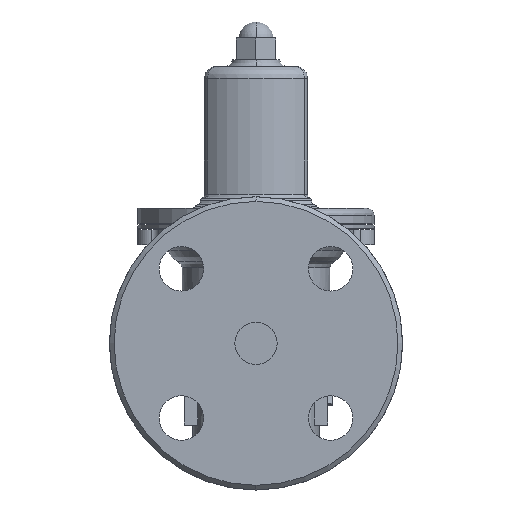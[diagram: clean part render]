
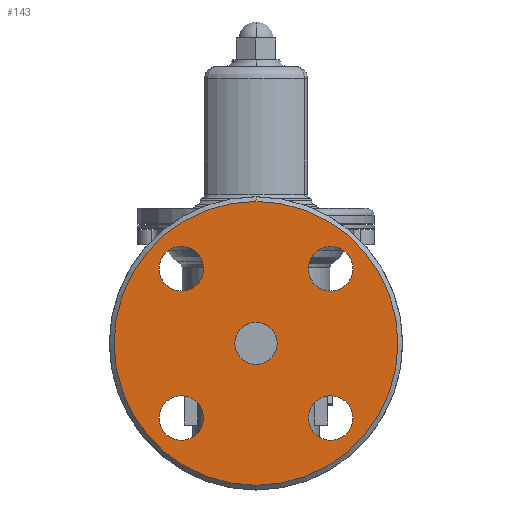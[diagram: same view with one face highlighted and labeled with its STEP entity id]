
A CAD part, left-side view. The second image highlights one B-rep face of the part: STEP entity #143.
In plain terms, the highlighted planar face has unit normal (-1, 0, 0).
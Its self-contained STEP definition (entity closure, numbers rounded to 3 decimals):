
#143=ADVANCED_FACE('',(#1430,#1431,#1432,#1433,#1434,#1435),#1429,.T.);
#1429=PLANE('',#5421);
#1430=FACE_OUTER_BOUND('',#5422,.T.);
#1431=FACE_BOUND('',#5423,.T.);
#1432=FACE_BOUND('',#5424,.T.);
#1433=FACE_BOUND('',#5425,.T.);
#1434=FACE_BOUND('',#5426,.T.);
#1435=FACE_BOUND('',#5427,.T.);
#5418=CARTESIAN_POINT('',(-100.,-114.789,-131.));
#5419=DIRECTION('',(-1.,0.,0.));
#5420=DIRECTION('',(0.,0.,1.));
#5421=AXIS2_PLACEMENT_3D('',#5418,#5419,#5420);
#5422=EDGE_LOOP('',(#8233,#8234));
#5423=EDGE_LOOP('',(#8235,#8236));
#5424=EDGE_LOOP('',(#8237,#8238));
#5425=EDGE_LOOP('',(#8239,#8240));
#5426=EDGE_LOOP('',(#8241,#8242));
#5427=EDGE_LOOP('',(#8243,#8244));
#8233=ORIENTED_EDGE('',*,*,#9779,.T.);
#8234=ORIENTED_EDGE('',*,*,#9780,.T.);
#8235=ORIENTED_EDGE('',*,*,#9781,.F.);
#8236=ORIENTED_EDGE('',*,*,#9782,.F.);
#8237=ORIENTED_EDGE('',*,*,#9783,.F.);
#8238=ORIENTED_EDGE('',*,*,#9784,.F.);
#8239=ORIENTED_EDGE('',*,*,#9785,.F.);
#8240=ORIENTED_EDGE('',*,*,#9786,.F.);
#8241=ORIENTED_EDGE('',*,*,#9787,.F.);
#8242=ORIENTED_EDGE('',*,*,#9788,.F.);
#8243=ORIENTED_EDGE('',*,*,#9789,.F.);
#8244=ORIENTED_EDGE('',*,*,#9790,.F.);
#9779=EDGE_CURVE('',#12756,#12757,#12758,.T.);
#9780=EDGE_CURVE('',#12757,#12756,#12764,.T.);
#9781=EDGE_CURVE('',#12770,#12771,#12772,.T.);
#9782=EDGE_CURVE('',#12771,#12770,#12778,.T.);
#9783=EDGE_CURVE('',#12784,#12785,#12786,.T.);
#9784=EDGE_CURVE('',#12785,#12784,#12792,.T.);
#9785=EDGE_CURVE('',#12798,#12799,#12800,.T.);
#9786=EDGE_CURVE('',#12799,#12798,#12806,.T.);
#9787=EDGE_CURVE('',#12812,#12813,#12814,.T.);
#9788=EDGE_CURVE('',#12813,#12812,#12820,.T.);
#9789=EDGE_CURVE('',#12826,#12827,#12828,.T.);
#9790=EDGE_CURVE('',#12827,#12826,#12834,.T.);
#12756=VERTEX_POINT('',#18455);
#12757=VERTEX_POINT('',#18456);
#12758=CIRCLE('',#18460,60.5);
#12764=CIRCLE('',#18464,60.5);
#12770=VERTEX_POINT('',#18465);
#12771=VERTEX_POINT('',#18466);
#12772=CIRCLE('',#18470,9.5);
#12778=CIRCLE('',#18474,9.5);
#12784=VERTEX_POINT('',#18475);
#12785=VERTEX_POINT('',#18476);
#12786=CIRCLE('',#18480,9.5);
#12792=CIRCLE('',#18484,9.5);
#12798=VERTEX_POINT('',#18485);
#12799=VERTEX_POINT('',#18486);
#12800=CIRCLE('',#18490,9.5);
#12806=CIRCLE('',#18494,9.5);
#12812=VERTEX_POINT('',#18495);
#12813=VERTEX_POINT('',#18496);
#12814=CIRCLE('',#18500,9.5);
#12820=CIRCLE('',#18504,9.5);
#12826=VERTEX_POINT('',#18505);
#12827=VERTEX_POINT('',#18506);
#12828=CIRCLE('',#18510,9.);
#12834=CIRCLE('',#18514,9.);
#18455=CARTESIAN_POINT('',(-100.,0.,60.5));
#18456=CARTESIAN_POINT('',(-100.,0.,-60.5));
#18457=CARTESIAN_POINT('',(-100.,0.,0.));
#18458=DIRECTION('',(-1.,0.,0.));
#18459=DIRECTION('',(0.,0.,1.));
#18460=AXIS2_PLACEMENT_3D('',#18457,#18458,#18459);
#18461=CARTESIAN_POINT('',(-100.,0.,0.));
#18462=DIRECTION('',(-1.,0.,0.));
#18463=DIRECTION('',(0.,0.,1.));
#18464=AXIS2_PLACEMENT_3D('',#18461,#18462,#18463);
#18465=CARTESIAN_POINT('',(-100.,31.82,41.32));
#18466=CARTESIAN_POINT('',(-100.,31.82,22.32));
#18467=CARTESIAN_POINT('',(-100.,31.82,31.82));
#18468=DIRECTION('',(-1.,0.,0.));
#18469=DIRECTION('',(0.,0.,-1.));
#18470=AXIS2_PLACEMENT_3D('',#18467,#18468,#18469);
#18471=CARTESIAN_POINT('',(-100.,31.82,31.82));
#18472=DIRECTION('',(-1.,0.,0.));
#18473=DIRECTION('',(0.,0.,-1.));
#18474=AXIS2_PLACEMENT_3D('',#18471,#18472,#18473);
#18475=CARTESIAN_POINT('',(-100.,31.82,-22.32));
#18476=CARTESIAN_POINT('',(-100.,31.82,-41.32));
#18477=CARTESIAN_POINT('',(-100.,31.82,-31.82));
#18478=DIRECTION('',(-1.,0.,0.));
#18479=DIRECTION('',(0.,0.,-1.));
#18480=AXIS2_PLACEMENT_3D('',#18477,#18478,#18479);
#18481=CARTESIAN_POINT('',(-100.,31.82,-31.82));
#18482=DIRECTION('',(-1.,0.,0.));
#18483=DIRECTION('',(0.,0.,-1.));
#18484=AXIS2_PLACEMENT_3D('',#18481,#18482,#18483);
#18485=CARTESIAN_POINT('',(-100.,-31.82,-22.32));
#18486=CARTESIAN_POINT('',(-100.,-31.82,-41.32));
#18487=CARTESIAN_POINT('',(-100.,-31.82,-31.82));
#18488=DIRECTION('',(-1.,0.,0.));
#18489=DIRECTION('',(0.,0.,-1.));
#18490=AXIS2_PLACEMENT_3D('',#18487,#18488,#18489);
#18491=CARTESIAN_POINT('',(-100.,-31.82,-31.82));
#18492=DIRECTION('',(-1.,0.,0.));
#18493=DIRECTION('',(0.,0.,-1.));
#18494=AXIS2_PLACEMENT_3D('',#18491,#18492,#18493);
#18495=CARTESIAN_POINT('',(-100.,-31.82,41.32));
#18496=CARTESIAN_POINT('',(-100.,-31.82,22.32));
#18497=CARTESIAN_POINT('',(-100.,-31.82,31.82));
#18498=DIRECTION('',(-1.,0.,0.));
#18499=DIRECTION('',(0.,0.,-1.));
#18500=AXIS2_PLACEMENT_3D('',#18497,#18498,#18499);
#18501=CARTESIAN_POINT('',(-100.,-31.82,31.82));
#18502=DIRECTION('',(-1.,0.,0.));
#18503=DIRECTION('',(0.,0.,-1.));
#18504=AXIS2_PLACEMENT_3D('',#18501,#18502,#18503);
#18505=CARTESIAN_POINT('',(-100.,0.,9.));
#18506=CARTESIAN_POINT('',(-100.,0.,-9.));
#18507=CARTESIAN_POINT('',(-100.,0.,0.));
#18508=DIRECTION('',(-1.,0.,0.));
#18509=DIRECTION('',(0.,0.,-1.));
#18510=AXIS2_PLACEMENT_3D('',#18507,#18508,#18509);
#18511=CARTESIAN_POINT('',(-100.,0.,0.));
#18512=DIRECTION('',(-1.,0.,0.));
#18513=DIRECTION('',(0.,0.,-1.));
#18514=AXIS2_PLACEMENT_3D('',#18511,#18512,#18513);
